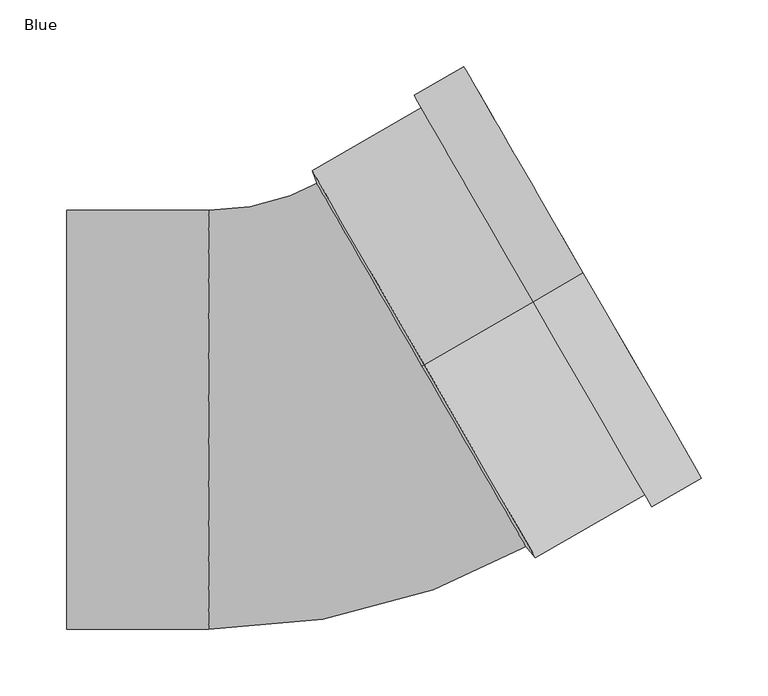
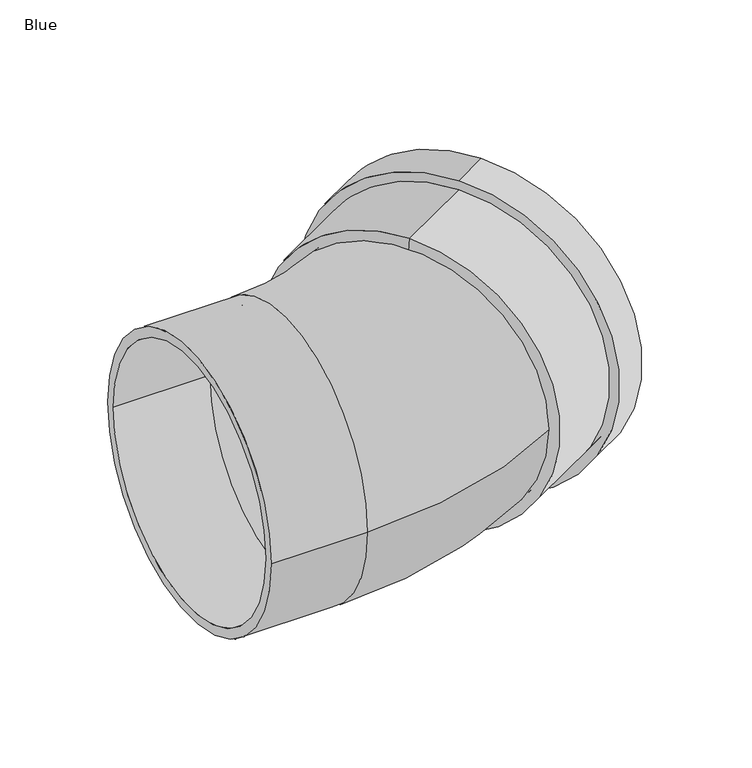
"""IFC4 building model written with IfcOpenShell, lengths in millimetres: pipe fitting geometry, AWADUKT PP SN10 Bend : Blue."""

from ifc_helpers import new_model, si_unit, point, frame, origin, place, context, project, spatial, polyline, circle_curve, ellipse_curve, trimmed, source, transform, mapped, element, save
from ifc_brep_helpers import plane_surface, cylinder_surface, revolved_surface, advanced_brep


def blue_3e8714aa(model_context):
    return source(origin(), model_context, "Body", "AdvancedBrep", [
        advanced_brep(
        [(153.7195092, 88.75, 168.3), (153.7195092, 88.75, -168.3), (71.7433245, 41.4210277, -168.3), (71.7433245, 41.4210277, 168.3), (191.1318066, 110.35, 179.1), (191.1318066, 110.35, -179.1), (153.7195092, 88.75, -179.1), (153.7195092, 88.75, 179.1), (181.7787323, 104.95, 157.5), (181.7787323, 104.95, -157.5), (191.1318066, 110.35, -157.5), (191.1318066, 110.35, 157.5), (163.0725835, 94.15, 168.3), (163.0725835, 94.15, -168.3), (181.7787323, 104.95, -168.3), (181.7787323, 104.95, 168.3), (79.5914857, 45.9521657, 157.5), (79.5914857, 45.9521657, -157.5), (163.0725835, 94.15, -157.5), (163.0725835, 94.15, 157.5), (77.9422863, 45.0, 146.7), (77.9422863, 45.0, -146.7), (68.4449257, 39.5166963, 146.7), (68.4449257, 39.5166963, -146.7)],
        [
            (0, 1, circle_curve(frame((153.7195092, 88.75, 0.0), z_axis=(-0.866025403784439, -0.49999999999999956, 0.0), x_axis=(0.0, 0.0, -1.0)), 168.3)),
            (1, 2),
            (2, 3, circle_curve(frame((71.7433245, 41.4210277, 0.0), z_axis=(0.866025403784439, 0.49999999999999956, 0.0), x_axis=(0.0, 0.0, -1.0)), 168.3)),
            (3, 0),
            (4, 5, circle_curve(frame((191.1318066, 110.35, 0.0), z_axis=(-0.866025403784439, -0.49999999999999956, 0.0), x_axis=(0.0, 0.0, -1.0)), 179.1)),
            (5, 6),
            (6, 7, circle_curve(frame((153.7195092, 88.75, 0.0), z_axis=(0.866025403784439, 0.49999999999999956, 0.0), x_axis=(0.0, 0.0, -1.0)), 179.1)),
            (7, 4),
            (8, 9, circle_curve(frame((181.7787323, 104.95, 0.0), z_axis=(-0.866025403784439, -0.49999999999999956, 0.0), x_axis=(0.0, 0.0, -1.0)), 157.5)),
            (9, 10),
            (10, 11, circle_curve(frame((191.1318066, 110.35, 0.0), z_axis=(0.866025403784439, 0.49999999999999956, 0.0), x_axis=(0.0, 0.0, -1.0)), 157.5)),
            (11, 8),
            (12, 13, circle_curve(frame((163.0725835, 94.15, 0.0), z_axis=(-0.866025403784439, -0.49999999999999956, 0.0), x_axis=(0.0, 0.0, -1.0)), 168.3)),
            (13, 14),
            (14, 15, circle_curve(frame((181.7787323, 104.95, 0.0), z_axis=(0.866025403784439, 0.49999999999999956, 0.0), x_axis=(0.0, 0.0, -1.0)), 168.3)),
            (15, 12),
            (16, 17, circle_curve(frame((79.5914857, 45.9521657, 0.0), z_axis=(-0.866025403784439, -0.49999999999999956, 0.0), x_axis=(0.0, 0.0, -1.0)), 157.5)),
            (17, 18),
            (18, 19, circle_curve(frame((163.0725835, 94.15, 0.0), z_axis=(0.866025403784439, 0.49999999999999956, 0.0), x_axis=(0.0, 0.0, -1.0)), 157.5)),
            (19, 16),
            (20, 21, circle_curve(frame((77.9422863, 45.0, 0.0), z_axis=(-0.866025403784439, -0.49999999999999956, 0.0), x_axis=(0.0, 0.0, -1.0)), 146.7)),
            (21, 17),
            (16, 20),
            (22, 23, circle_curve(frame((68.4449257, 39.5166963, 0.0), z_axis=(-0.866025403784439, -0.49999999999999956, 0.0), x_axis=(0.0, 0.0, -1.0)), 146.7)),
            (23, 21),
            (20, 22),
            (2, 23),
            (22, 3),
            (1, 0, circle_curve(frame((153.7195092, 88.75, 0.0), z_axis=(-0.866025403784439, -0.49999999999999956, 0.0), x_axis=(0.0, 0.0, 1.0)), 168.3)),
            (3, 2, circle_curve(frame((71.7433245, 41.4210277, 0.0), z_axis=(0.866025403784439, 0.49999999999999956, 0.0), x_axis=(0.0, 0.0, 1.0)), 168.3)),
            (6, 7, circle_curve(frame((153.7195092, 88.75, 0.0), z_axis=(-0.866025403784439, -0.49999999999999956, 0.0), x_axis=(0.0, 0.0, 1.0)), 179.1)),
            (5, 4, circle_curve(frame((191.1318066, 110.35, 0.0), z_axis=(-0.866025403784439, -0.49999999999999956, 0.0), x_axis=(0.0, 0.0, 1.0)), 179.1)),
            (10, 11, circle_curve(frame((191.1318066, 110.35, 0.0), z_axis=(-0.866025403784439, -0.49999999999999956, 0.0), x_axis=(0.0, 0.0, 1.0)), 157.5)),
            (9, 8, circle_curve(frame((181.7787323, 104.95, 0.0), z_axis=(-0.866025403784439, -0.49999999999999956, 0.0), x_axis=(0.0, 0.0, 1.0)), 157.5)),
            (14, 15, circle_curve(frame((181.7787323, 104.95, 0.0), z_axis=(-0.866025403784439, -0.49999999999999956, 0.0), x_axis=(0.0, 0.0, 1.0)), 168.3)),
            (13, 12, circle_curve(frame((163.0725835, 94.15, 0.0), z_axis=(-0.866025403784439, -0.49999999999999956, 0.0), x_axis=(0.0, 0.0, 1.0)), 168.3)),
            (18, 19, circle_curve(frame((163.0725835, 94.15, 0.0), z_axis=(-0.866025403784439, -0.49999999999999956, 0.0), x_axis=(0.0, 0.0, 1.0)), 157.5)),
            (17, 16, circle_curve(frame((79.5914857, 45.9521657, 0.0), z_axis=(-0.866025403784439, -0.49999999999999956, 0.0), x_axis=(0.0, 0.0, 1.0)), 157.5)),
            (21, 20, circle_curve(frame((77.9422863, 45.0, 0.0), z_axis=(-0.866025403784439, -0.49999999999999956, 0.0), x_axis=(0.0, 0.0, 1.0)), 146.7)),
            (23, 22, circle_curve(frame((68.4449257, 39.5166963, 0.0), z_axis=(-0.866025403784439, -0.49999999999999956, 0.0), x_axis=(0.0, 0.0, 1.0)), 146.7)),
        ],
        [
            cylinder_surface(frame((77.9422863, 45.0, 0.0), z_axis=(0.866025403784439, 0.49999999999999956, 0.0), x_axis=(0.0, 0.0, -1.0)), 168.3),
            cylinder_surface(frame((77.9422863, 45.0, 0.0), z_axis=(0.866025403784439, 0.49999999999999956, 0.0), x_axis=(0.0, 0.0, -1.0)), 179.1),
            revolved_surface(polyline([(191.13180659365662, 110.35000001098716, -157.5), (181.7787322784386, 104.95000003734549, -157.5)]), (77.9422863, 45.0, 0.0), (0.866025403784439, 0.49999999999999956, 0.0)),
            revolved_surface(polyline([(181.7787322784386, 104.95000003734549, -168.3), (163.07258349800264, 94.1500000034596, -168.3)]), (77.9422863, 45.0, 0.0), (0.866025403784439, 0.49999999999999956, 0.0)),
            revolved_surface(polyline([(163.07258349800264, 94.1500000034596, -157.5), (79.59148569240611, 45.95216571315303, -157.5)]), (77.9422863, 45.0, 0.0), (0.866025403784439, 0.49999999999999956, 0.0)),
            revolved_surface(polyline([(79.5914857, 45.9521657, -157.5), (77.9422863, 45.0, -146.7)]), (77.9422863, 45.0, 0.0), (0.866025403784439, 0.49999999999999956, 0.0)),
            revolved_surface(polyline([(77.9422863, 45.0, -146.7), (68.44492569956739, 39.51669630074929, -146.7)]), (77.9422863, 45.0, 0.0), (0.866025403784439, 0.49999999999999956, 0.0)),
            revolved_surface(polyline([(68.4449257, 39.5166963, -146.7), (71.7433245, 41.4210277, -168.3)]), (77.9422863, 45.0, 0.0), (0.866025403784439, 0.49999999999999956, 0.0)),
            cylinder_surface(frame((77.9422863, 45.0, 0.0), z_axis=(0.866025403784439, 0.49999999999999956, 0.0), x_axis=(0.0, 0.0, 1.0)), 168.3),
            plane_surface(frame((153.7195092, 88.75, 0.0), z_axis=(-0.866025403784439, -0.49999999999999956, 0.0), x_axis=(0.0, 0.0, 1.0))),
            cylinder_surface(frame((77.9422863, 45.0, 0.0), z_axis=(0.866025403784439, 0.49999999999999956, 0.0), x_axis=(0.0, 0.0, 1.0)), 179.1),
            plane_surface(frame((191.1318066, 110.35, 0.0), z_axis=(0.866025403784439, 0.49999999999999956, 0.0), x_axis=(0.0, 0.0, 1.0))),
            revolved_surface(polyline([(191.13180659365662, 110.35000001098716, 157.5), (181.7787322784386, 104.95000003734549, 157.5)]), (77.9422863, 45.0, 0.0), (0.866025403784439, 0.49999999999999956, 0.0)),
            plane_surface(frame((181.7787323, 104.95, 0.0), z_axis=(-0.866025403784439, -0.49999999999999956, 0.0), x_axis=(0.0, 0.0, 1.0))),
            revolved_surface(polyline([(181.7787322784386, 104.95000003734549, 168.3), (163.07258349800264, 94.1500000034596, 168.3)]), (77.9422863, 45.0, 0.0), (0.866025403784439, 0.49999999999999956, 0.0)),
            plane_surface(frame((163.0725835, 94.15, 0.0), z_axis=(0.866025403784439, 0.49999999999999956, 0.0), x_axis=(0.0, 0.0, 1.0))),
            revolved_surface(polyline([(163.07258349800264, 94.1500000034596, 157.5), (79.59148569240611, 45.95216571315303, 157.5)]), (77.9422863, 45.0, 0.0), (0.866025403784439, 0.49999999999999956, 0.0)),
            revolved_surface(polyline([(79.5914857, 45.9521657, 157.5), (77.9422863, 45.0, 146.7)]), (77.9422863, 45.0, 0.0), (0.866025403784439, 0.49999999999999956, 0.0)),
            revolved_surface(polyline([(77.9422863, 45.0, 146.7), (68.44492569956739, 39.51669630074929, 146.7)]), (77.9422863, 45.0, 0.0), (0.866025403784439, 0.49999999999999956, 0.0)),
            revolved_surface(polyline([(68.4449257, 39.5166963, 146.7), (71.7433245, 41.4210277, 168.3)]), (77.9422863, 45.0, 0.0), (0.866025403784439, 0.49999999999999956, 0.0)),
        ],
        [
            (0, [[1, 2, 3, 4]]),
            (1, [[5, 6, 7, 8]]),
            (2, [[9, 10, 11, 12]]),
            (3, [[13, 14, 15, 16]]),
            (4, [[17, 18, 19, 20]]),
            (5, [[21, 22, -17, 23]]),
            (6, [[24, 25, -21, 26]]),
            (7, [[-3, 27, -24, 28]]),
            (8, [[29, -4, 30, -2]]),
            (9, [[31, -7], [-29, -1]]),
            (10, [[32, -8, -31, -6]]),
            (11, [[-32, -5], [33, -11]]),
            (12, [[34, -12, -33, -10]]),
            (13, [[35, -15], [-34, -9]]),
            (14, [[36, -16, -35, -14]]),
            (15, [[-36, -13], [37, -19]]),
            (16, [[38, -20, -37, -18]]),
            (17, [[39, -23, -38, -22]]),
            (18, [[40, -26, -39, -25]]),
            (19, [[-30, -28, -40, -27]]),
        ],
    ),
        advanced_brep(
        [(-197.0, -157.5, 0.0), (-197.0, 157.5, 0.0), (-197.0, -146.7, 0.0), (-197.0, 146.7, 0.0), (156.6922863, -91.3990011, 0.0), (-0.8077137, 181.3990011, 0.0), (151.2922863, -82.0459267, 0.0), (4.5922863, 172.0459267, 0.0), (-90.0, -146.7, 0.0), (-90.0, 146.7, 0.0), (-90.0, -157.5, 0.0), (-90.0, 157.5, 0.0)],
        [
            (0, 1, circle_curve(frame((-197.0, 0.0, 0.0), z_axis=(-1.0, 0.0, 0.0), x_axis=(0.0, 1.0, 0.0)), 157.5)),
            (1, 0, circle_curve(frame((-197.0, 0.0, 0.0), z_axis=(-1.0, 0.0, 0.0), x_axis=(0.0, 1.0, 0.0)), 157.5)),
            (2, 3, circle_curve(frame((-197.0, 0.0, 0.0), z_axis=(1.0, 0.0, 0.0), x_axis=(0.0, 1.0, 0.0)), 146.7)),
            (3, 2, circle_curve(frame((-197.0, 0.0, 0.0), z_axis=(1.0, 0.0, 0.0), x_axis=(0.0, 1.0, 0.0)), 146.7)),
            (4, 5, circle_curve(frame((77.9422863, 45.0, 0.0), z_axis=(0.8660254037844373, 0.5000000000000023, 0.0), x_axis=(-0.5000000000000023, 0.8660254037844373, 0.0)), 157.5)),
            (5, 4, circle_curve(frame((77.9422863, 45.0, 0.0), z_axis=(0.8660254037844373, 0.5000000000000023, 0.0), x_axis=(-0.5000000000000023, 0.8660254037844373, 0.0)), 157.5)),
            (6, 7, circle_curve(frame((77.9422863, 45.0, 0.0), z_axis=(-0.8660254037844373, -0.5000000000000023, 0.0), x_axis=(-0.5000000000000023, 0.8660254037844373, 0.0)), 146.7)),
            (7, 6, circle_curve(frame((77.9422863, 45.0, 0.0), z_axis=(-0.8660254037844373, -0.5000000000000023, 0.0), x_axis=(-0.5000000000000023, 0.8660254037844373, 0.0)), 146.7)),
            (2, 8),
            (8, 9, circle_curve(frame((-90.0, 0.0, 0.0), z_axis=(1.0, 0.0, 0.0), x_axis=(0.0, 1.0, 0.0)), 146.7)),
            (9, 3),
            (9, 8, circle_curve(frame((-90.0, 0.0, 0.0), z_axis=(1.0, 0.0, 0.0), x_axis=(0.0, 1.0, 0.0)), 146.7)),
            (0, 10),
            (10, 11, circle_curve(frame((-90.0, 0.0, 0.0), z_axis=(-1.0, 0.0, 0.0), x_axis=(0.0, 1.0, 0.0)), 157.5)),
            (11, 1),
            (11, 10, circle_curve(frame((-90.0, 0.0, 0.0), z_axis=(-1.0, 0.0, 0.0), x_axis=(0.0, 1.0, 0.0)), 157.5)),
            (7, 9, circle_curve(frame((-90.0, 335.8845727, 0.0), z_axis=(0.0, 0.0, -1.0), x_axis=(0.0, -1.0, 0.0)), 189.1845727)),
            (8, 6, circle_curve(frame((-90.0, 335.8845727, 0.0), z_axis=(0.0, 0.0, 1.0), x_axis=(0.0, -1.0, 0.0)), 482.5845727)),
            (5, 11, circle_curve(frame((-90.0, 335.8845727, 0.0), z_axis=(0.0, 0.0, -1.0), x_axis=(0.0, -1.0, 0.0)), 178.3845727)),
            (10, 4, circle_curve(frame((-90.0, 335.8845727, 0.0), z_axis=(0.0, 0.0, 1.0), x_axis=(0.0, -1.0, 0.0)), 493.3845727)),
        ],
        [
            plane_surface(frame((-197.0, 0.0, 0.0), z_axis=(-1.0, 0.0, 0.0), x_axis=(0.0, 0.0, 1.0))),
            plane_surface(frame((77.9422863, 45.0, 0.0), z_axis=(0.8660254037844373, 0.5000000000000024, 0.0), x_axis=(0.0, 0.0, 1.0))),
            revolved_surface(polyline([(-90.0, 146.7, 0.0), (-197.0, 146.7, 0.0)]), (-197.0, 0.0, 0.0), (1.0, 0.0, 0.0)),
            cylinder_surface(frame((-197.0, 0.0, 0.0), z_axis=(-1.0, 0.0, 0.0), x_axis=(0.0, 1.0, 0.0)), 157.5),
            revolved_surface(trimmed(ellipse_curve(frame((-90.0, 0.0, 0.0), z_axis=(1.0, 0.0, 0.0), x_axis=(0.0, 1.0, 0.0)), 146.7, 146.7), [point((-90.0, -146.7, 0.0))], [point((-90.0, 146.7, 0.0))], True, "CARTESIAN"), (-90.0, 335.8845727, 0.0), (0.0, 0.0, 1.0)),
            revolved_surface(trimmed(ellipse_curve(frame((-90.0, 0.0, 0.0), z_axis=(1.0, 0.0, 0.0), x_axis=(0.0, 1.0, 0.0)), 146.7, 146.7), [point((-90.0, 146.7, 0.0))], [point((-90.0, -146.7, 0.0))], True, "CARTESIAN"), (-90.0, 335.8845727, 0.0), (0.0, 0.0, 1.0)),
            revolved_surface(trimmed(ellipse_curve(frame((-90.0, 0.0, 0.0), z_axis=(-1.0, 0.0, 0.0), x_axis=(0.0, 1.0, 0.0)), 157.5, 157.5), [point((-90.0, -157.5, 0.0))], [point((-90.0, 157.5, 0.0))], True, "CARTESIAN"), (-90.0, 335.8845727, 0.0), (0.0, 0.0, 1.0)),
            revolved_surface(trimmed(ellipse_curve(frame((-90.0, 0.0, 0.0), z_axis=(-1.0, 0.0, 0.0), x_axis=(0.0, 1.0, 0.0)), 157.5, 157.5), [point((-90.0, 157.5, 0.0))], [point((-90.0, -157.5, 0.0))], True, "CARTESIAN"), (-90.0, 335.8845727, 0.0), (0.0, 0.0, 1.0)),
        ],
        [
            (0, [[1, 2], [3, 4]]),
            (1, [[5, 6], [7, 8]]),
            (2, [[-3, 9, 10, 11]]),
            (2, [[-4, -11, 12, -9]]),
            (3, [[-1, 13, 14, 15]]),
            (3, [[-2, -15, 16, -13]]),
            (4, [[17, -10, 18, -8]]),
            (5, [[-18, -12, -17, -7]]),
            (6, [[19, -14, 20, -6]]),
            (7, [[-20, -16, -19, -5]]),
        ],
    ),
    ])


if __name__ == "__main__":
    model = new_model("IFC4")
    model_context = context("Model", 3, world=origin())
    ifc_project = project(units=[si_unit("LENGTHUNIT", "METRE", prefix="MILLI")], contexts=[model_context])
    site = spatial("IfcSite", under=ifc_project)
    building = spatial("IfcBuilding", under=site)
    placement = place(None, origin())
    blue_shape = blue_3e8714aa(model_context)
    element("IfcPipeFitting", 1, ObjectType="AWADUKT PP SN10 Bend : Blue", at=placement, inside=building, context=model_context, shape_type="MappedRepresentation", body=[
        mapped(blue_shape, transform((0.0, 0.0, 0.0), x_axis=(1.0, 0.0, 0.0), y_axis=(0.0, 1.0, 0.0), z_axis=(0.0, 0.0, 1.0))),
    ])
    save(model, "model.ifc")
